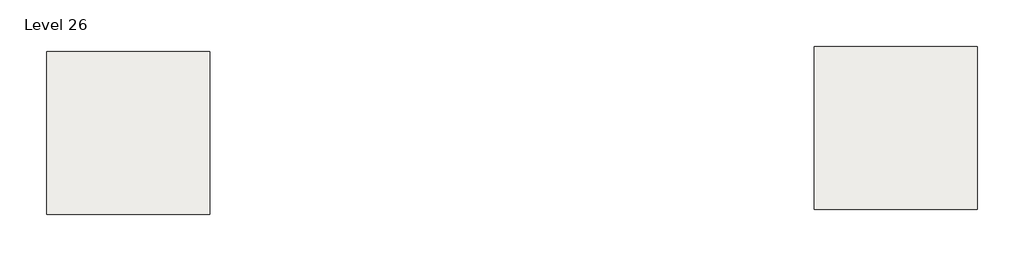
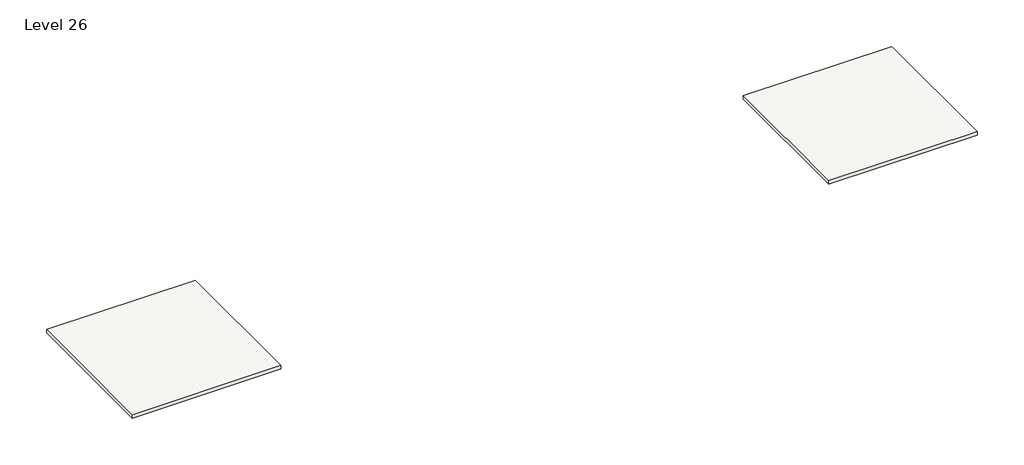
# One storey: 2 slabs.
"""IFC4 building model written with IfcOpenShell, lengths in millimetres."""

import ifcopenshell
import ifcopenshell.guid

model = None  # the IFC model being written
_history = None  # IfcOwnerHistory: only IFC2X3 demands one
_inside = {}  # id of a spatial element -> (the spatial element, [elements in it])
_under = {}  # id of a project, library or spatial element -> (it, [spatial elements below it])
_declared = {}  # id of a project -> (the project, [libraries it declares])
_typed = {}  # id of a type object -> (the type object, [elements of that type])
_made_of = {}  # id of a material, layer set ... -> (it, [elements and type objects made of it])


def new_model(schema):
    """Start an empty IFC model of exactly this schema.

    Asked for "IFC4X3", IfcOpenShell would pick the latest addendum, in which some entities
    have other attributes; the version numbers below select the first issue.
    IFC2X3 requires an IfcOwnerHistory on every rooted entity: one is made here for all.
    """
    global model, _history
    if schema == "IFC4X3":
        model = ifcopenshell.file(schema_version=(4, 3, 0, 0))
    else:
        model = ifcopenshell.file(schema=schema)
    _inside.clear()
    _under.clear()
    _declared.clear()
    _typed.clear()
    _made_of.clear()
    _history = None
    if model.schema == "IFC2X3":
        org = make("IfcOrganization", Name="unknown")
        user = make(
            "IfcPersonAndOrganization",
            ThePerson=make("IfcPerson", FamilyName="unknown"),
            TheOrganization=org,
        )
        app = make(
            "IfcApplication",
            ApplicationDeveloper=org,
            Version="unknown",
            ApplicationFullName="unknown",
            ApplicationIdentifier="unknown",
        )
        _history = make(
            "IfcOwnerHistory",
            OwningUser=user,
            OwningApplication=app,
            ChangeAction="ADDED",
            CreationDate=0,
        )
    return model


def make(cls, **values):
    """One entity of the class cls with the attributes given. An attribute that is None is left unset."""
    return model.create_entity(
        cls, **{name: value for name, value in values.items() if value is not None}
    )


def rooted(cls, **values):
    """An entity with a GlobalId (a new one), such as an element, a storey or a relation."""
    return make(cls, GlobalId=ifcopenshell.guid.new(), OwnerHistory=_history, **values)


def si_unit(unit_type, name, prefix=None):
    """IfcSIUnit, for example si_unit("LENGTHUNIT", "METRE", prefix="MILLI")."""
    return make("IfcSIUnit", UnitType=unit_type, Prefix=prefix, Name=name)


def assignment(units):
    """IfcUnitAssignment: the units of a project."""
    return None if units is None else make("IfcUnitAssignment", Units=units)


def point(xyz):
    """IfcCartesianPoint."""
    return None if xyz is None else make("IfcCartesianPoint", Coordinates=xyz)


def direction(xyz):
    """IfcDirection."""
    return None if xyz is None else make("IfcDirection", DirectionRatios=xyz)


def frame(location, z_axis=None, x_axis=None):
    """IfcAxis2Placement3D, a coordinate frame: its origin and axes. An axis left out is left unset."""
    return make(
        "IfcAxis2Placement3D",
        Location=point(location),
        Axis=direction(z_axis),
        RefDirection=direction(x_axis),
    )


def origin():
    """The frame at (0, 0, 0) with its axes left unset."""
    return frame((0.0, 0.0, 0.0))


def place(relative_to, where):
    """IfcLocalPlacement: puts the frame where relative to a parent placement (None: the world)."""
    return make(
        "IfcLocalPlacement", PlacementRelTo=relative_to, RelativePlacement=where
    )


def context(
    kind, dimensions, precision=None, world=None, true_north=None, identifier=None
):
    """IfcGeometricRepresentationContext, for example the 3D "Model" context."""
    return make(
        "IfcGeometricRepresentationContext",
        ContextIdentifier=identifier,
        ContextType=kind,
        CoordinateSpaceDimension=dimensions,
        Precision=precision,
        WorldCoordinateSystem=world,
        TrueNorth=true_north,
    )


def project(units=None, contexts=None):
    """IfcProject with its units and contexts."""
    return rooted(
        "IfcProject",
        Name="project",
        RepresentationContexts=contexts,
        UnitsInContext=assignment(units),
    )


def spatial(cls, under=None, at=None, **own):
    """A site, building, storey or space (cls), placed at a placement, below another one or the project."""
    s = rooted(cls, ObjectPlacement=at, **own)
    if under is not None:
        _under.setdefault(under.id(), (under, []))[1].append(s)
    return s


def polyline(points):
    """IfcPolyline through the points."""
    return make("IfcPolyline", Points=[point(p) for p in points])


def outline(outer, holes=None, kind="AREA"):
    """IfcArbitraryClosedProfileDef: a profile drawn as a closed curve; with holes, ...WithVoids."""
    if holes is None:
        return make("IfcArbitraryClosedProfileDef", ProfileType=kind, OuterCurve=outer)
    return make(
        "IfcArbitraryProfileDefWithVoids",
        ProfileType=kind,
        OuterCurve=outer,
        InnerCurves=holes,
    )


def extrude(swept, where, along, depth):
    """IfcExtrudedAreaSolid: the profile swept, set in the frame where, extruded along a direction by depth."""
    return make(
        "IfcExtrudedAreaSolid",
        SweptArea=swept,
        Position=where,
        ExtrudedDirection=direction(along),
        Depth=depth,
    )


def shape(context_of_items, identifier, shape_type, items):
    """IfcShapeRepresentation: the items that make up one representation, for example the "Body"."""
    return make(
        "IfcShapeRepresentation",
        ContextOfItems=context_of_items,
        RepresentationIdentifier=identifier,
        RepresentationType=shape_type,
        Items=items,
    )


def made_of(thing, what):
    """Note that an element or type object is made of a material, layer set ...; save() writes the relation."""
    if what is not None:
        _made_of.setdefault(what.id(), (what, []))[1].append(thing)
    return thing


def element(
    cls,
    number,
    at=None,
    inside=None,
    cuts=None,
    type_object=None,
    material=None,
    context=None,
    identifier="Body",
    shape_type=None,
    held_by="IfcProductDefinitionShape",
    body=None,
    shapes=None,
    **own,
):
    """One element of the class cls, such as IfcWall. Its Tag is "e" and its number.

    at: its placement. inside: the storey or other place that contains it. cuts: it is an
    opening in that element (IfcRelVoidsElement). A single representation is given by context,
    identifier, shape_type and body (its items); several are given by shapes. held_by: the class
    of the entity that holds the representations. save() writes the other relations.
    """
    e = rooted(cls, Tag="e%d" % number, ObjectPlacement=at, **own)
    if body is not None:
        shapes = [shape(context, identifier, shape_type, body)]
    if shapes is not None:
        e.Representation = make(held_by, Representations=shapes)
    if inside is not None:
        _inside.setdefault(inside.id(), (inside, []))[1].append(e)
    if cuts is not None:
        rooted(
            "IfcRelVoidsElement", RelatingBuildingElement=cuts, RelatedOpeningElement=e
        )
    if type_object is not None:
        _typed.setdefault(type_object.id(), (type_object, []))[1].append(e)
    return made_of(e, material)


def aggregate(whole, parts):
    """IfcRelAggregates: a whole, such as a stair, and the parts it consists of."""
    return rooted("IfcRelAggregates", RelatingObject=whole, RelatedObjects=parts)


def save(model, path):
    """Write the relations noted so far, then the file.

    IfcRelAggregates (storeys below a building ...), IfcRelContainedInSpatialStructure (elements
    in a storey), IfcRelDefinesByType, IfcRelAssociatesMaterial and IfcRelDeclares: one each for
    every whole, place, type object, material and project.
    """
    for whole, parts in _under.values():
        aggregate(whole, parts)
    for where, things in _inside.values():
        rooted(
            "IfcRelContainedInSpatialStructure",
            RelatedElements=things,
            RelatingStructure=where,
        )
    for kind, things in _typed.values():
        rooted("IfcRelDefinesByType", RelatedObjects=things, RelatingType=kind)
    for what, things in _made_of.values():
        rooted("IfcRelAssociatesMaterial", RelatedObjects=things, RelatingMaterial=what)
    for by, libraries in _declared.values():
        rooted("IfcRelDeclares", RelatingContext=by, RelatedDefinitions=libraries)
    model.write(path)


model = new_model("IFC4")

# Units and contexts
model_context = context("Model", 3, world=origin())
ifc_project = project(units=[si_unit("LENGTHUNIT", "METRE", prefix="MILLI")], contexts=[model_context])

# Site, building, storey
site = spatial("IfcSite", under=ifc_project)
building = spatial("IfcBuilding", under=site)
storey = spatial("IfcBuildingStorey", under=building, Name="Level 26", Elevation=76200.0)

# Slabs
placement = place(None, origin())
element("IfcSlab", 1, ObjectType="Generic - 12\"", at=placement, inside=storey, context=model_context, shape_type="SweptSolid", body=[
    extrude(outline(polyline([(-19315.4161695, 7973.9495511), (-7123.4161695, 7973.9495511), (-7123.4161695, -4218.0504489), (-19315.4161695, -4218.0504489), (-19315.4161695, 7973.9495511)])), frame((0.0, 0.0, 75895.2), z_axis=(0.0, 0.0, 1.0), x_axis=(1.0, 0.0, 0.0)), (0.0, 0.0, 1.0), 304.8),
])
element("IfcSlab", 2, ObjectType="Generic - 12\"", at=placement, inside=storey, context=model_context, shape_type="SweptSolid", body=[
    extrude(outline(polyline([(38118.2903978, 8351.0904402), (50310.2903978, 8351.0904402), (50310.2903978, -3840.9095598), (38118.2903978, -3840.9095598), (38118.2903978, 8351.0904402)])), frame((0.0, 0.0, 75895.2), z_axis=(0.0, 0.0, 1.0), x_axis=(1.0, 0.0, 0.0)), (0.0, 0.0, 1.0), 304.8),
])

save(model, "model.ifc")
